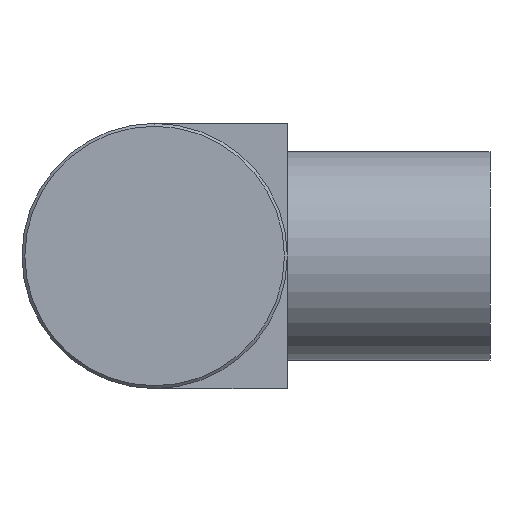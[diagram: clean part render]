
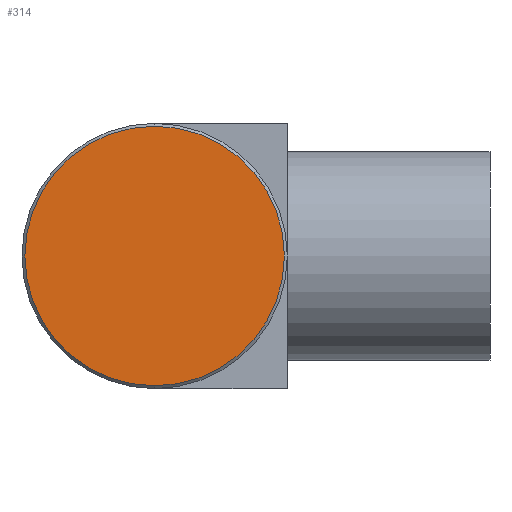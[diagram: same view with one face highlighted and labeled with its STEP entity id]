
A CAD part, left-side view. The second image highlights one B-rep face of the part: STEP entity #314.
In plain terms, the highlighted planar face has unit normal (-1, 0, 0).
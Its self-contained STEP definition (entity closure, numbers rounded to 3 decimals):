
#6 = PLANE ( 'NONE',  #616 ) ;
#8 = ORIENTED_EDGE ( 'NONE', *, *, #170, .T. ) ;
#10 = DIRECTION ( 'NONE',  ( 0., 0., 1. ) ) ;
#34 = CARTESIAN_POINT ( 'NONE',  ( 0., 0., 13.7 ) ) ;
#65 = DIRECTION ( 'NONE',  ( 0., 0., 1. ) ) ;
#83 = DIRECTION ( 'NONE',  ( 0., 0., -1. ) ) ;
#170 = EDGE_CURVE ( 'NONE', #518, #547, #414, .T. ) ;
#191 = CARTESIAN_POINT ( 'NONE',  ( 0., 0., -13.7 ) ) ;
#247 = EDGE_CURVE ( 'NONE', #547, #518, #925, .T. ) ;
#256 = DIRECTION ( 'NONE',  ( 1., 0., 0. ) ) ;
#314 = ADVANCED_FACE ( 'NONE', ( #388 ), #6, .F. ) ;
#348 = ORIENTED_EDGE ( 'NONE', *, *, #247, .T. ) ;
#388 = FACE_OUTER_BOUND ( 'NONE', #976, .T. ) ;
#412 = CARTESIAN_POINT ( 'NONE',  ( 0., 0., 0. ) ) ;
#414 = CIRCLE ( 'NONE', #1103, 13.7 ) ;
#518 = VERTEX_POINT ( 'NONE', #191 ) ;
#547 = VERTEX_POINT ( 'NONE', #34 ) ;
#616 = AXIS2_PLACEMENT_3D ( 'NONE', #1027, #256, #83 ) ;
#693 = AXIS2_PLACEMENT_3D ( 'NONE', #941, #1034, #10 ) ;
#925 = CIRCLE ( 'NONE', #693, 13.7 ) ;
#941 = CARTESIAN_POINT ( 'NONE',  ( 0., 0., 0. ) ) ;
#976 = EDGE_LOOP ( 'NONE', ( #8, #348 ) ) ;
#1015 = DIRECTION ( 'NONE',  ( -1., 0., 0. ) ) ;
#1027 = CARTESIAN_POINT ( 'NONE',  ( 0., 0., 0. ) ) ;
#1034 = DIRECTION ( 'NONE',  ( -1., 0., 0. ) ) ;
#1103 = AXIS2_PLACEMENT_3D ( 'NONE', #412, #1015, #65 ) ;
